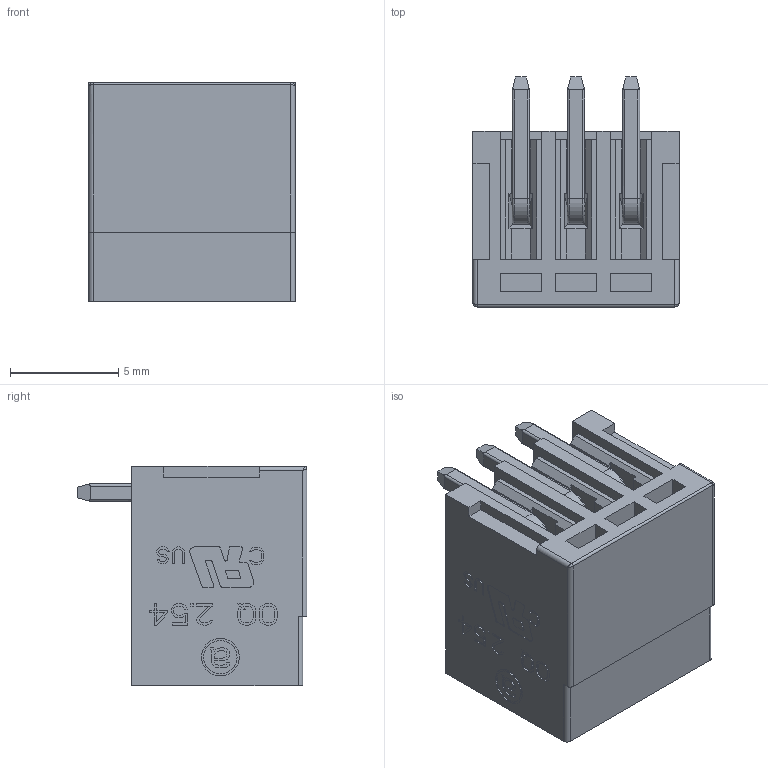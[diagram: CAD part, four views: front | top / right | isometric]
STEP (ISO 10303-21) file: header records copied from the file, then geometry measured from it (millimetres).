
FILE_DESCRIPTION((''),'2;1');
FILE_NAME('3P_ASM','2026-03-04T',('renkang.li'),(''),'CREO PARAMETRIC BY PTC INC, 2016260','CREO PARAMETRIC BY PTC INC, 2016260','');
FILE_SCHEMA(('CONFIG_CONTROL_DESIGN'));
Length unit declared in the file: millimetre
Products named in the file (1): 3P_ASM
Bounding box: 9.52 x 10.6 x 10.1 mm (x, y, z)
Volume: 440.7 mm3; surface area: 1067.2 mm2
Topology: 1 solids, 1 shells, 819 faces, 2323 edges, 1504 vertices
Faces by surface type: plane 729, cylinder 64, torus 18, cone 6, bspline 2
Entity records: 26368 total; most frequent: CARTESIAN_POINT 5083, ORIENTED_EDGE 4646, DIRECTION 4045, EDGE_CURVE 2323, VECTOR 2075, LINE 2075, VERTEX_POINT 1504, AXIS2_PLACEMENT_3D 985
